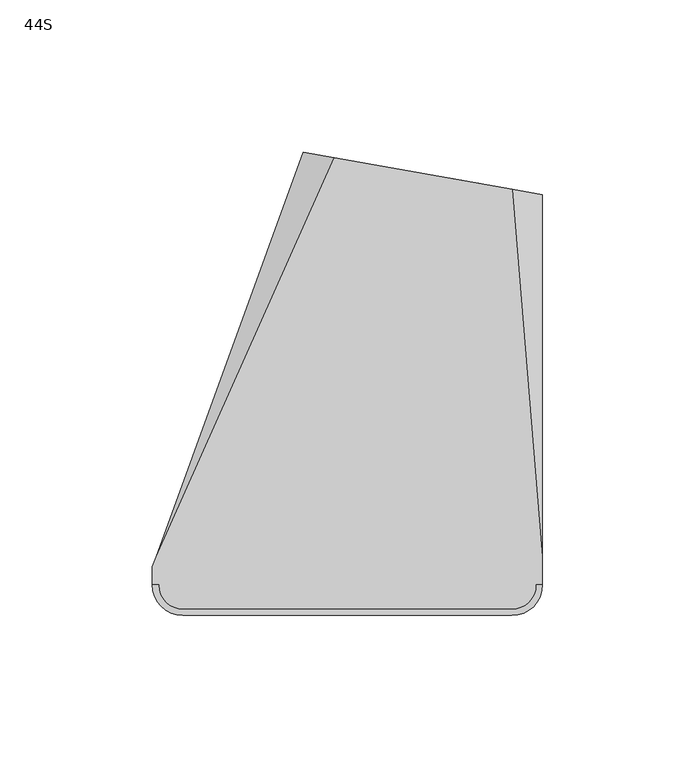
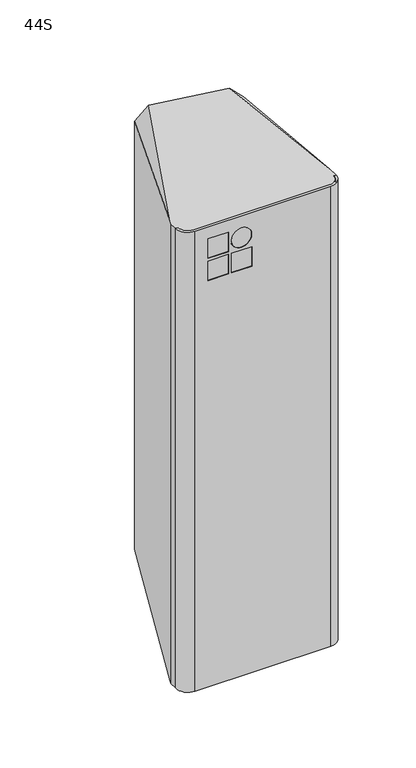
"""IFC4 building model written with IfcOpenShell, lengths in millimetres: proxy geometry, d&b xS-Series 44S Point Source : 44S."""

from ifc_helpers import new_model, si_unit, point, frame, frame_2d, origin, place, context, project, spatial, polyline, circle_curve, ellipse_curve, trimmed, segment, composite_curve, outline, extrude, source, transform, mapped, element, save
from ifc_brep_helpers import plane_surface, cylinder_surface, revolved_surface, advanced_brep


def proxy_44s_b15d02b6(model_context):
    return source(origin(), model_context, "Body", "SolidModel", [
        advanced_brep(
        [(-54.0, -73.9650952, -193.4294708), (54.078429, -73.9650952, -193.4294708), (62.0435242, -66.0, -193.2924342), (64.0, -66.0, -193.2924342), (54.0, -76.0, -193.4644806), (-54.0, -76.0, -193.4644806), (-64.0349048, -65.9650952, -193.2918337), (-62.0, -65.9650952, -193.2918337), (54.078429, -73.9650952, 193.4294708), (-54.0, -73.9650952, 193.4294708), (-62.0, -65.9650952, 193.2918337), (-64.0349048, -65.9650952, 193.2918337), (-54.0, -76.0, 193.4644806), (54.0, -76.0, 193.4644806), (64.0, -66.0, 193.2924342), (62.0435242, -66.0, 193.2924342), (-25.3333333, -73.9650952, 164.7978139), (-25.3333333, -73.9650952, 148.4644806), (-9.0, -73.9650952, 148.4644806), (-9.0, -73.9650952, 164.7978139), (-44.0, -73.9650952, 164.7978139), (-44.0, -73.9650952, 148.4644806), (-27.6666667, -73.9650952, 148.4644806), (-27.6666667, -73.9650952, 164.7978139), (-44.0, -73.9650952, 183.4644806), (-44.0, -73.9650952, 167.1311473), (-27.6666667, -73.9650952, 167.1311473), (-27.6666667, -73.9650952, 183.4644806), (-17.1666667, -73.9650952, 167.1311473), (-17.1666667, -73.9650952, 183.4644806), (-25.3333333, -76.0, 148.4644806), (-25.3333333, -76.0, 164.7978139), (-9.0, -76.0, 164.7978139), (-9.0, -76.0, 148.4644806), (-44.0, -76.0, 148.4644806), (-44.0, -76.0, 164.7978139), (-27.6666667, -76.0, 164.7978139), (-27.6666667, -76.0, 148.4644806), (-44.0, -76.0, 167.1311473), (-44.0, -76.0, 183.4644806), (-27.6666667, -76.0, 183.4644806), (-27.6666667, -76.0, 167.1311473), (-17.1666667, -76.0, 183.4644806), (-17.1666667, -76.0, 167.1311473)],
        [
            (0, 1),
            (1, 2, ellipse_curve(frame((54.078429, -66.0, -193.2924342), z_axis=(0.0, -0.017202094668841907, 0.9998520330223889), x_axis=(0.0, 0.999852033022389, 0.017202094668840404)), 7.9662739, 7.9650952)),
            (2, 3),
            (3, 4, ellipse_curve(frame((54.0, -66.0, -193.2924342), z_axis=(0.0, 0.017202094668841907, -0.9998520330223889), x_axis=(0.0, -0.999852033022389, -0.017202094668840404)), 10.0014799, 10.0)),
            (4, 5),
            (5, 6, ellipse_curve(frame((-54.0, -65.9650952, -193.2918337), z_axis=(0.0, 0.017202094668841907, -0.9998520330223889), x_axis=(0.0, -0.999852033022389, -0.017202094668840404)), 10.0363899, 10.0349048)),
            (6, 7),
            (7, 0, ellipse_curve(frame((-54.0, -65.9650952, -193.2918337), z_axis=(0.0, -0.017202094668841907, 0.9998520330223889), x_axis=(0.0, 0.999852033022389, 0.017202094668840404)), 8.0011839, 8.0)),
            (8, 9),
            (9, 10, ellipse_curve(frame((-54.0, -65.9650952, 193.2918337), z_axis=(0.0, -0.017202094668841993, -0.9998520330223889), x_axis=(0.0, -0.999852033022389, 0.017202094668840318)), 8.0011839, 8.0)),
            (10, 11),
            (11, 12, ellipse_curve(frame((-54.0, -65.9650952, 193.2918337), z_axis=(0.0, 0.017202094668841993, 0.9998520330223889), x_axis=(0.0, 0.999852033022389, -0.017202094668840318)), 10.0363899, 10.0349048)),
            (12, 13),
            (13, 14, ellipse_curve(frame((54.0, -66.0, 193.2924342), z_axis=(0.0, 0.017202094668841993, 0.9998520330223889), x_axis=(0.0, 0.999852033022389, -0.017202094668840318)), 10.0014799, 10.0)),
            (14, 15),
            (15, 8, ellipse_curve(frame((54.078429, -66.0, 193.2924342), z_axis=(0.0, -0.017202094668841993, -0.9998520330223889), x_axis=(0.0, -0.999852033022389, 0.017202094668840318)), 7.9662739, 7.9650952)),
            (0, 9),
            (8, 1),
            (16, 17),
            (17, 18),
            (18, 19),
            (19, 16),
            (20, 21),
            (21, 22),
            (22, 23),
            (23, 20),
            (24, 25),
            (25, 26),
            (26, 27),
            (27, 24),
            (28, 29, circle_curve(frame((-17.1666667, -73.9650952, 175.2978139), z_axis=(0.0, -1.0, 0.0), x_axis=(0.0, 0.0, -1.0)), 8.1666667)),
            (29, 28, circle_curve(frame((-17.1666667, -73.9650952, 175.2978139), z_axis=(0.0, -1.0, 0.0), x_axis=(0.0, 0.0, -1.0)), 8.1666667)),
            (15, 2),
            (14, 3),
            (13, 4),
            (12, 5),
            (30, 31),
            (31, 32),
            (32, 33),
            (33, 30),
            (34, 35),
            (35, 36),
            (36, 37),
            (37, 34),
            (38, 39),
            (39, 40),
            (40, 41),
            (41, 38),
            (42, 43, circle_curve(frame((-17.1666667, -76.0, 175.2978139), z_axis=(0.0, 1.0, 0.0), x_axis=(0.0, 0.0, -1.0)), 8.1666667)),
            (43, 42, circle_curve(frame((-17.1666667, -76.0, 175.2978139), z_axis=(0.0, 1.0, 0.0), x_axis=(0.0, 0.0, -1.0)), 8.1666667)),
            (11, 6),
            (10, 7),
            (16, 31),
            (30, 17),
            (19, 32),
            (18, 33),
            (20, 35),
            (34, 21),
            (23, 36),
            (22, 37),
            (24, 39),
            (38, 25),
            (27, 40),
            (26, 41),
            (28, 43),
            (42, 29),
        ],
        [
            plane_surface(frame((-100.0, -97.3033587, -193.8309972), z_axis=(0.0, 0.017202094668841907, -0.9998520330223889), x_axis=(1.0, 0.0, 0.0))),
            plane_surface(frame((-100.0, 83.9889493, 190.7119283), z_axis=(0.0, 0.017202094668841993, 0.9998520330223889), x_axis=(1.0, 0.0, 0.0))),
            plane_surface(frame((-54.0, -73.9650952, -202.5), z_axis=(0.0, 1.0, 0.0), x_axis=(0.0, 0.0, 1.0))),
            revolved_surface(polyline([(46.1133338, -66.0, 193.4294708), (46.1133338, -66.0, -193.4294708)]), (54.078429, -66.0, 202.5), (0.0, 0.0, 1.0)),
            plane_surface(frame((62.0435242, -66.0, -202.5), z_axis=(0.0, 1.0, 0.0), x_axis=(0.0, 0.0, 1.0))),
            cylinder_surface(frame((54.0, -66.0, 202.5), z_axis=(0.0, 0.0, -1.0), x_axis=(-1.0, 0.0, 0.0)), 10.0),
            plane_surface(frame((54.0, -76.0, -202.5), z_axis=(0.0, -1.0, 0.0), x_axis=(0.0, 0.0, 1.0))),
            cylinder_surface(frame((-54.0, -65.9650952, 202.5), z_axis=(0.0, 0.0, -1.0), x_axis=(-1.0, 0.0, 0.0)), 10.0349048),
            plane_surface(frame((-64.0349048, -65.9650952, -202.5), z_axis=(0.0, 1.0, 0.0), x_axis=(0.0, 0.0, 1.0))),
            revolved_surface(polyline([(-62.0, -65.9650952, 193.42947082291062), (-62.0, -65.9650952, -193.42947082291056)]), (-54.0, -65.9650952, 202.5), (0.0, 0.0, 1.0)),
            plane_surface(frame((-25.3333333, -76.0, 164.7978139), z_axis=(1.0, 0.0, 0.0), x_axis=(0.0, 1.0, 0.0))),
            plane_surface(frame((-9.0, -76.0, 164.7978139), z_axis=(0.0, 0.0, -1.0), x_axis=(0.0, 1.0, 0.0))),
            plane_surface(frame((-9.0, -76.0, 148.4644806), z_axis=(-1.0, 0.0, 0.0), x_axis=(0.0, 1.0, 0.0))),
            plane_surface(frame((-25.3333333, -76.0, 148.4644806), z_axis=(0.0, 0.0, 1.0), x_axis=(0.0, 1.0, 0.0))),
            plane_surface(frame((-44.0, -76.0, 164.7978139), z_axis=(1.0, 0.0, 0.0), x_axis=(0.0, 1.0, 0.0))),
            plane_surface(frame((-27.6666667, -76.0, 164.7978139), z_axis=(0.0, 0.0, -1.0), x_axis=(0.0, 1.0, 0.0))),
            plane_surface(frame((-27.6666667, -76.0, 148.4644806), z_axis=(-1.0, 0.0, 0.0), x_axis=(0.0, 1.0, 0.0))),
            plane_surface(frame((-44.0, -76.0, 148.4644806), z_axis=(0.0, 0.0, 1.0), x_axis=(0.0, 1.0, 0.0))),
            plane_surface(frame((-44.0, -76.0, 183.4644806), z_axis=(1.0, 0.0, 0.0), x_axis=(0.0, 1.0, 0.0))),
            plane_surface(frame((-27.6666667, -76.0, 183.4644806), z_axis=(0.0, 0.0, -1.0), x_axis=(0.0, 1.0, 0.0))),
            plane_surface(frame((-27.6666667, -76.0, 167.1311473), z_axis=(-1.0, 0.0, 0.0), x_axis=(0.0, 1.0, 0.0))),
            plane_surface(frame((-44.0, -76.0, 167.1311473), z_axis=(0.0, 0.0, 1.0), x_axis=(0.0, 1.0, 0.0))),
            revolved_surface(polyline([(-17.1666667, -76.0, 167.1311472), (-17.1666667, -73.9650952, 167.1311472)]), (-17.1666667, -15.7477083, 175.2978139), (0.0, -1.0, 0.0)),
        ],
        [
            (0, [[1, 2, 3, 4, 5, 6, 7, 8]]),
            (1, [[9, 10, 11, 12, 13, 14, 15, 16]]),
            (2, [[17, -9, 18, -1], [19, 20, 21, 22], [23, 24, 25, 26], [27, 28, 29, 30], [31, 32]]),
            (3, [[-18, -16, 33, -2]]),
            (4, [[-33, -15, 34, -3]]),
            (5, [[-34, -14, 35, -4]]),
            (6, [[-35, -13, 36, -5], [37, 38, 39, 40], [41, 42, 43, 44], [45, 46, 47, 48], [49, 50]]),
            (7, [[-36, -12, 51, -6]]),
            (8, [[-51, -11, 52, -7]]),
            (9, [[-17, -8, -52, -10]]),
            (10, [[53, -37, 54, -19]]),
            (11, [[-53, -22, 55, -38]]),
            (12, [[-55, -21, 56, -39]]),
            (13, [[-56, -20, -54, -40]]),
            (14, [[57, -41, 58, -23]]),
            (15, [[-57, -26, 59, -42]]),
            (16, [[-59, -25, 60, -43]]),
            (17, [[-60, -24, -58, -44]]),
            (18, [[61, -45, 62, -27]]),
            (19, [[-61, -30, 63, -46]]),
            (20, [[-63, -29, 64, -47]]),
            (21, [[-64, -28, -62, -48]]),
            (22, [[65, -49, 66, -31]]),
            (22, [[-65, -32, -66, -50]]),
        ],
    ),
        extrude(outline(polyline([(-9.0, -76.0), (-25.3333333, -76.0), (-25.3333333, -71.0), (-9.0, -71.0), (-9.0, -76.0)])), frame((0.0, 0.0, 148.4644806), z_axis=(0.0, 0.0, 1.0), x_axis=(1.0, 0.0, 0.0)), (0.0, 0.0, 1.0), 16.3333333),
        extrude(outline(polyline([(-27.6666667, -76.0), (-44.0, -76.0), (-44.0, -71.0), (-27.6666667, -71.0), (-27.6666667, -76.0)])), frame((0.0, 0.0, 148.4644806), z_axis=(0.0, 0.0, 1.0), x_axis=(1.0, 0.0, 0.0)), (0.0, 0.0, 1.0), 16.3333333),
        extrude(outline(polyline([(-27.6666667, -76.0), (-44.0, -76.0), (-44.0, -71.0), (-27.6666667, -71.0), (-27.6666667, -76.0)])), frame((0.0, 0.0, 167.1311473), z_axis=(0.0, 0.0, 1.0), x_axis=(1.0, 0.0, 0.0)), (0.0, 0.0, 1.0), 16.3333333),
        extrude(outline(composite_curve([segment(trimmed(circle_curve(frame_2d((175.2978139, -17.1666667)), 8.1666667), [point((183.4644806, -17.1666667))], [point((167.1311473, -17.1666667))], False, "CARTESIAN"), True, "CONTINUOUS"), segment(trimmed(circle_curve(frame_2d((175.2978139, -17.1666667)), 8.1666667), [point((167.1311473, -17.1666667))], [point((183.4644806, -17.1666667))], False, "CARTESIAN"), True, "CONTINUOUS")], self_intersect=False)), frame((0.0, -76.0, 0.0), z_axis=(0.0, 1.0, 0.0), x_axis=(0.0, 0.0, 1.0)), (0.0, 0.0, 1.0), 5.0),
        advanced_brep(
        [(64.0, -66.0, -193.2924342), (62.0435242, -66.0, -193.2924342), (54.078429, -73.9650952, -193.4294708), (-54.0, -73.9650952, -193.4294708), (-62.0, -65.9650952, -193.2918337), (-64.0, -65.9650952, -193.2918337), (-64.0, -60.0349048, -193.1898069), (-62.7855103, -56.6972655, -193.132384), (-4.3760941, 74.2148737, -190.8800877), (54.074657, 63.9084293, -191.0574064), (64.0, -56.6972655, -193.132384), (62.0435242, -66.0, 193.2924342), (64.0, -66.0, 193.2924342), (64.0, -56.6972655, 193.132384), (54.074657, 63.9084293, 191.0574064), (-4.3760941, 74.2148737, 190.8800877), (-62.7855103, -56.6972655, 193.132384), (-64.0, -60.0349048, 193.1898069), (-64.0, -65.9650952, 193.2918337), (-62.0, -65.9650952, 193.2918337), (-54.0, -73.9650952, 193.4294708), (54.078429, -73.9650952, 193.4294708), (64.0, 62.1583235, -181.3061997), (64.0, 62.1583235, 181.3061997), (-14.5000481, 76.0, 179.9289467), (-14.5000481, 76.0, -179.9289467), (11.9474751, 71.3365881, -138.5), (37.5524767, 66.8217355, -138.5), (47.4005542, 65.0852537, -128.5), (47.4005542, 65.0852537, -51.5), (37.5524767, 66.8217355, -41.5), (11.9474751, 71.3365881, -41.5), (2.0993976, 73.0730698, -51.5), (2.0993976, 73.0730698, -128.5), (11.0792343, 66.4125493, -138.5), (1.2311567, 68.1490311, -128.5), (1.2311567, 68.1490311, -51.5), (11.0792343, 66.4125493, -41.5), (36.6842358, 61.8976967, -41.5), (46.5323134, 60.1612149, -51.5), (46.5323134, 60.1612149, -128.5), (36.6842358, 61.8976967, -138.5)],
        [
            (0, 1),
            (1, 2, ellipse_curve(frame((54.078429, -66.0, -193.2924342), z_axis=(0.0, 0.017202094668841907, -0.9998520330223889), x_axis=(0.0, -0.999852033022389, -0.017202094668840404)), 7.9662739, 7.9650952)),
            (2, 3),
            (3, 4, ellipse_curve(frame((-54.0, -65.9650952, -193.2918337), z_axis=(0.0, 0.017202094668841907, -0.9998520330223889), x_axis=(0.0, -0.999852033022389, -0.017202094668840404)), 8.0011839, 8.0)),
            (4, 5),
            (5, 6),
            (6, 7),
            (7, 8),
            (8, 9),
            (9, 10),
            (10, 0),
            (11, 12),
            (12, 13),
            (13, 14),
            (14, 15),
            (15, 16),
            (16, 17),
            (17, 18),
            (18, 19),
            (19, 20, ellipse_curve(frame((-54.0, -65.9650952, 193.2918337), z_axis=(0.0, 0.017202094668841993, 0.9998520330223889), x_axis=(0.0, 0.999852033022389, -0.017202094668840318)), 8.0011839, 8.0)),
            (20, 21),
            (21, 11, ellipse_curve(frame((54.078429, -66.0, 193.2924342), z_axis=(0.0, 0.017202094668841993, 0.9998520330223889), x_axis=(0.0, 0.999852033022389, -0.017202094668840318)), 7.9662739, 7.9650952)),
            (0, 12),
            (11, 1),
            (21, 2),
            (20, 3),
            (19, 4),
            (18, 5),
            (17, 6),
            (10, 22),
            (22, 23),
            (23, 13),
            (16, 24),
            (24, 25),
            (25, 7),
            (9, 22),
            (23, 14),
            (15, 24),
            (25, 8),
            (26, 27),
            (27, 28, circle_curve(frame((37.5524767, 66.8217355, -128.5), z_axis=(-0.17364817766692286, -0.9848077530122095, 0.0), x_axis=(-0.9848077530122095, 0.17364817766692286, 0.0)), 10.0)),
            (28, 29),
            (29, 30, circle_curve(frame((37.5524767, 66.8217355, -51.5), z_axis=(-0.17364817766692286, -0.9848077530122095, 0.0), x_axis=(-0.9848077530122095, 0.17364817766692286, 0.0)), 10.0)),
            (30, 31),
            (31, 32, circle_curve(frame((11.9474751, 71.3365881, -51.5), z_axis=(-0.17364817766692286, -0.9848077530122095, 0.0), x_axis=(-0.9848077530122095, 0.17364817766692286, 0.0)), 10.0)),
            (32, 33),
            (33, 26, circle_curve(frame((11.9474751, 71.3365881, -128.5), z_axis=(-0.17364817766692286, -0.9848077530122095, 0.0), x_axis=(-0.9848077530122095, 0.17364817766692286, 0.0)), 10.0)),
            (34, 35, circle_curve(frame((11.0792343, 66.4125493, -128.5), z_axis=(0.17364817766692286, 0.9848077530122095, 0.0), x_axis=(-0.9848077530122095, 0.17364817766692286, 0.0)), 10.0)),
            (35, 36),
            (36, 37, circle_curve(frame((11.0792343, 66.4125493, -51.5), z_axis=(0.17364817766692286, 0.9848077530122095, 0.0), x_axis=(-0.9848077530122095, 0.17364817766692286, 0.0)), 10.0)),
            (37, 38),
            (38, 39, circle_curve(frame((36.6842358, 61.8976967, -51.5), z_axis=(0.17364817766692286, 0.9848077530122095, 0.0), x_axis=(-0.9848077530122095, 0.17364817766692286, 0.0)), 10.0)),
            (39, 40),
            (40, 41, circle_curve(frame((36.6842358, 61.8976967, -128.5), z_axis=(0.17364817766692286, 0.9848077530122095, 0.0), x_axis=(-0.9848077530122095, 0.17364817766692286, 0.0)), 10.0)),
            (41, 34),
            (41, 27),
            (26, 34),
            (40, 28),
            (39, 29),
            (38, 30),
            (37, 31),
            (36, 32),
            (35, 33),
        ],
        [
            plane_surface(frame((-100.0, -97.3033587, -193.8309972), z_axis=(0.0, 0.017202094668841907, -0.9998520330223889), x_axis=(1.0, 0.0, 0.0))),
            plane_surface(frame((-100.0, 83.9889493, 190.7119283), z_axis=(0.0, 0.017202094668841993, 0.9998520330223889), x_axis=(1.0, 0.0, 0.0))),
            plane_surface(frame((64.0, -66.0, -207.1452552), z_axis=(0.0, -1.0, 0.0), x_axis=(0.0, 0.0, 1.0))),
            cylinder_surface(frame((54.078429, -66.0, 207.1452552), z_axis=(0.0, 0.0, -1.0), x_axis=(1.0, 0.0, 0.0)), 7.9650952),
            plane_surface(frame((54.078429, -73.9650952, -207.1452552), z_axis=(0.0, -1.0, 0.0), x_axis=(0.0, 0.0, 1.0))),
            cylinder_surface(frame((-54.0, -65.9650952, 207.1452552), z_axis=(0.0, 0.0, -1.0), x_axis=(1.0, 0.0, 0.0)), 8.0),
            plane_surface(frame((-62.0, -65.9650952, -207.1452552), z_axis=(0.0, -1.0, 0.0), x_axis=(0.0, 0.0, 1.0))),
            plane_surface(frame((-64.0, -65.9650952, -207.1452552), z_axis=(-1.0, 0.0, 0.0), x_axis=(0.0, 0.0, 1.0))),
            plane_surface(frame((64.0, -60.0349048, -207.1452552), z_axis=(1.0, 0.0, 0.0), x_axis=(0.0, 0.0, 1.0))),
            plane_surface(frame((-14.5000481, 76.0, 0.0), z_axis=(-0.9397208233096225, 0.3419426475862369, 0.0), x_axis=(0.0, 0.0, -1.0))),
            plane_surface(frame((57.232233, 76.0, -186.6967137), z_axis=(0.7053631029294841, 0.07018394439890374, -0.7053631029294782), x_axis=(0.7071067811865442, 0.0, 0.7071067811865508))),
            plane_surface(frame((57.232233, 76.0, 186.6967137), z_axis=(0.7053631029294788, 0.07018394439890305, 0.7053631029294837), x_axis=(-0.7071067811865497, 0.0, 0.7071067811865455))),
            plane_surface(frame((-7.7322812, 76.0, 186.6967137), z_axis=(-0.6719558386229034, 0.31136907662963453, 0.6719558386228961), x_axis=(-0.7071067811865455, 0.0, -0.7071067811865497))),
            plane_surface(frame((-7.7322812, 76.0, -186.6967137), z_axis=(-0.6719558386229, 0.31136907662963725, -0.6719558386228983), x_axis=(0.7071067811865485, 0.0, -0.7071067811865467))),
            plane_surface(frame((81.2585403, 59.1151772, -250.0), z_axis=(0.17364817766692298, 0.9848077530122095, 0.0), x_axis=(0.0, 0.0, 1.0))),
            plane_surface(frame((63.1317591, 57.2342848, -138.5), z_axis=(0.1736481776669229, 0.9848077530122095, 0.0), x_axis=(0.9848077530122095, -0.1736481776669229, 0.0))),
            plane_surface(frame((11.0792343, 66.4125493, -138.5), z_axis=(0.0, 0.0, 1.0000000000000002), x_axis=(0.17364817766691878, 0.9848077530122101, 0.0))),
            revolved_surface(polyline([(26.836158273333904, 63.634178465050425, -128.5), (27.704399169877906, 68.55821727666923, -128.5)]), (37.5524767, 66.8217355, -128.5), (-0.17364817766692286, -0.9848077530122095, 0.0)),
            plane_surface(frame((46.5323134, 60.1612149, -128.5), z_axis=(-0.9848077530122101, 0.17364817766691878, 0.0), x_axis=(0.17364817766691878, 0.9848077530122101, 0.0))),
            revolved_surface(polyline([(26.836158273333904, 63.634178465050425, -51.5), (27.704399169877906, 68.55821727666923, -51.5)]), (37.5524767, 66.8217355, -51.5), (-0.17364817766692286, -0.9848077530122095, 0.0)),
            plane_surface(frame((36.6842358, 61.8976967, -41.5), z_axis=(0.0, 0.0, -1.0000000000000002), x_axis=(0.17364817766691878, 0.9848077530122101, 0.0))),
            revolved_surface(polyline([(1.2311566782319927, 68.14903109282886, -51.5), (2.0993975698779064, 73.07306987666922, -51.5)]), (11.9474751, 71.3365881, -51.5), (-0.17364817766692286, -0.9848077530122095, 0.0)),
            plane_surface(frame((1.2311567, 68.1490311, -51.5), z_axis=(0.9848077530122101, -0.17364817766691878, 0.0), x_axis=(0.17364817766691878, 0.9848077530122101, 0.0))),
            revolved_surface(polyline([(1.2311566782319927, 68.14903109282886, -128.5), (2.0993975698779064, 73.07306987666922, -128.5)]), (11.9474751, 71.3365881, -128.5), (-0.17364817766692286, -0.9848077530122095, 0.0)),
        ],
        [
            (0, [[1, 2, 3, 4, 5, 6, 7, 8, 9, 10, 11]]),
            (1, [[12, 13, 14, 15, 16, 17, 18, 19, 20, 21, 22]]),
            (2, [[23, -12, 24, -1]]),
            (3, [[-24, -22, 25, -2]]),
            (4, [[-25, -21, 26, -3]]),
            (5, [[-26, -20, 27, -4]]),
            (6, [[-27, -19, 28, -5]]),
            (7, [[-28, -18, 29, -6]]),
            (8, [[-23, -11, 30, 31, 32, -13]]),
            (9, [[-29, -17, 33, 34, 35, -7]]),
            (10, [[-30, -10, 36]]),
            (11, [[-32, 37, -14]]),
            (12, [[-33, -16, 38]]),
            (13, [[-35, 39, -8]]),
            (14, [[-31, -36, -9, -39, -34, -38, -15, -37], [40, 41, 42, 43, 44, 45, 46, 47]]),
            (15, [[48, 49, 50, 51, 52, 53, 54, 55]]),
            (16, [[-55, 56, -40, 57]]),
            (17, [[-54, 58, -41, -56]]),
            (18, [[-53, 59, -42, -58]]),
            (19, [[-52, 60, -43, -59]]),
            (20, [[-51, 61, -44, -60]]),
            (21, [[-50, 62, -45, -61]]),
            (22, [[-49, 63, -46, -62]]),
            (23, [[-48, -57, -47, -63]]),
        ],
    ),
    ])


if __name__ == "__main__":
    model = new_model("IFC4")
    model_context = context("Model", 3, world=origin())
    ifc_project = project(units=[si_unit("LENGTHUNIT", "METRE", prefix="MILLI")], contexts=[model_context])
    site = spatial("IfcSite", under=ifc_project)
    building = spatial("IfcBuilding", under=site)
    placement = place(None, origin())
    proxy_44s_shape = proxy_44s_b15d02b6(model_context)
    element("IfcBuildingElementProxy", 1, Name="d&b xS-Series 44S Point Source : 44S", ObjectType="d&b xS-Series 44S Point Source : 44S", at=placement, inside=building, context=model_context, shape_type="MappedRepresentation", body=[
        mapped(proxy_44s_shape, transform((0.0, 0.0, 0.0), x_axis=(1.0, 0.0, 0.0), y_axis=(0.0, 1.0, 0.0), z_axis=(0.0, 0.0, 1.0))),
    ])
    save(model, "model.ifc")
